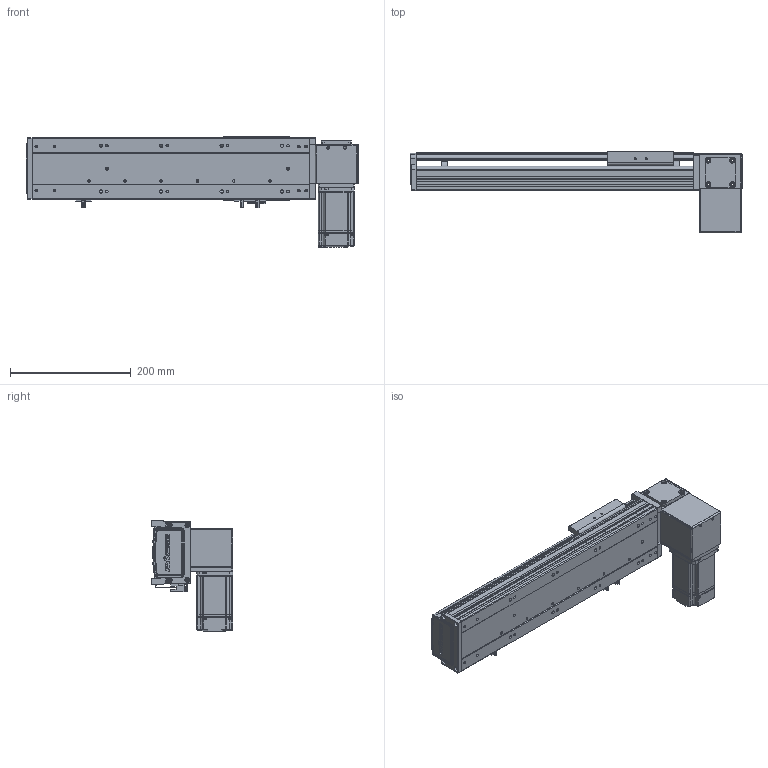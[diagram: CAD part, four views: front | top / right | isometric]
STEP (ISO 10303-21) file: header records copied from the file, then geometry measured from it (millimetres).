
FILE_DESCRIPTION (( 'STEP AP203' ), '1' );
FILE_NAME ('RY100-T-300-DL.SLDASM_250.step', '2024-04-24T01:10:33', ( '盈信电脑' ), ( '东莞市道滘镇水果街19号' ), 'SwSTEP 2.0', 'SolidWorks 2016', '' );
FILE_SCHEMA (( 'CONFIG_CONTROL_DESIGN' ));
Length unit declared in the file: millimetre
Products named in the file (16): RY100綴裔啣; RY100-T-300-RK倰第奻裔_250; RY100-T翋肮祭謫裔啣2; 1; RY80-T肮祭謫狟殏俋欶; RY100-T-300-RK倰第菁釱_250; RY100-T肮祭謫翋盓傅釱; RY100-T左右折电机安装板; 滅袉蝶18-10; RY100-T翋肮祭謫粣; RY100俋离覜茼え; RY100-T肮祭謫臏賑輸; RY100-T-300-DL.SLDASM_250; RY100-T粣創揤踡裔; 覜茼ん672; RY100-T翋肮祭謫裔啣
Assembly tree (18 placements, depth 2):
  RY100-T-300-DL.SLDASM_250
    RY100-T-300-RK倰第菁釱_250
    RY100-T-300-RK倰第奻裔_250
    RY100-T肮祭謫臏賑輸
    RY100綴裔啣
    覜茼ん672  x3
    RY100俋离覜茼え
    RY100-T翋肮祭謫粣
    RY100-T肮祭謫翋盓傅釱
    滅袉蝶18-10  x2
    RY100-T翋肮祭謫裔啣
    1
    RY100-T左右折电机安装板
    RY100-T粣創揤踡裔
    RY100-T翋肮祭謫裔啣2
    RY80-T肮祭謫狟殏俋欶
Bounding box: 550 x 135.5 x 182.5 mm (x, y, z)
Volume: 1446420.6 mm3; surface area: 552273.8 mm2
Topology: 18 solids, 18 shells, 2135 faces, 5876 edges, 3810 vertices
Faces by surface type: plane 1199, cylinder 725, cone 133, bspline 78
Entity records: 67833 total; most frequent: CARTESIAN_POINT 16078, ORIENTED_EDGE 10584, DIRECTION 10120, EDGE_CURVE 5292, VECTOR 3506, LINE 3506, VERTEX_POINT 3478, AXIS2_PLACEMENT_3D 3307
